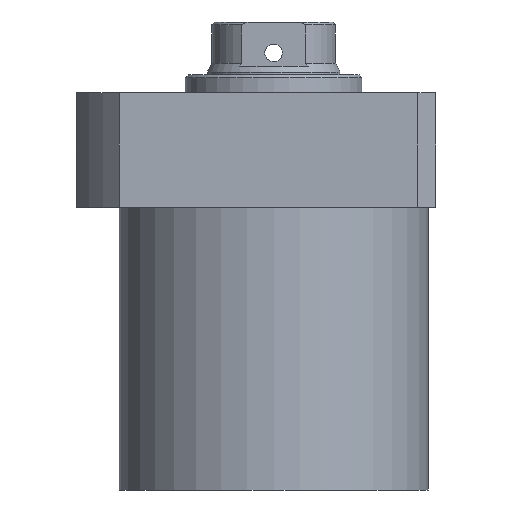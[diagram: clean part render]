
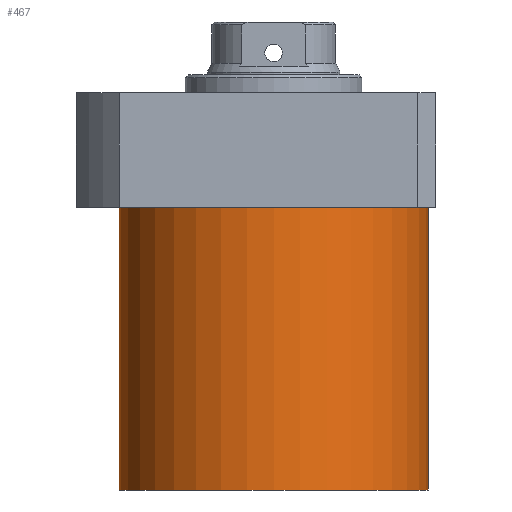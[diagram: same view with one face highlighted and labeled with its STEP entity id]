
A CAD part, front view. The second image highlights one B-rep face of the part: STEP entity #467.
In plain terms, the highlighted cylindrical face has radius 52.5 mm (diameter 105 mm), a partial arc.
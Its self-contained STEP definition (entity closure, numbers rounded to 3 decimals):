
#19 = ORIENTED_EDGE ( 'NONE', *, *, #179, .T. ) ;
#28 = CARTESIAN_POINT ( 'NONE',  ( -52.5, 0., -19.5 ) ) ;
#105 = DIRECTION ( 'NONE',  ( -1., 0., 0. ) ) ;
#159 = CIRCLE ( 'NONE', #407, 52.5 ) ;
#178 = CARTESIAN_POINT ( 'NONE',  ( 52.5, 0., -115.5 ) ) ;
#179 = EDGE_CURVE ( 'NONE', #2017, #1587, #897, .T. ) ;
#249 = CARTESIAN_POINT ( 'NONE',  ( 0., 0., -115.5 ) ) ;
#311 = DIRECTION ( 'NONE',  ( 0., 0., 1. ) ) ;
#328 = AXIS2_PLACEMENT_3D ( 'NONE', #1656, #1997, #661 ) ;
#407 = AXIS2_PLACEMENT_3D ( 'NONE', #249, #1109, #105 ) ;
#459 = FACE_OUTER_BOUND ( 'NONE', #1081, .T. ) ;
#467 = ADVANCED_FACE ( 'NONE', ( #459 ), #652, .T. ) ;
#628 = ORIENTED_EDGE ( 'NONE', *, *, #1413, .F. ) ;
#652 = CYLINDRICAL_SURFACE ( 'NONE', #1900, 52.5 ) ;
#661 = DIRECTION ( 'NONE',  ( 1., 0., 0. ) ) ;
#749 = LINE ( 'NONE', #1343, #1059 ) ;
#813 = CIRCLE ( 'NONE', #328, 52.5 ) ;
#897 = LINE ( 'NONE', #2161, #980 ) ;
#980 = VECTOR ( 'NONE', #311, 1000. ) ;
#982 = EDGE_CURVE ( 'NONE', #1545, #1484, #749, .T. ) ;
#1059 = VECTOR ( 'NONE', #1359, 1000. ) ;
#1081 = EDGE_LOOP ( 'NONE', ( #2125, #628, #19, #1808 ) ) ;
#1109 = DIRECTION ( 'NONE',  ( 0., 0., -1. ) ) ;
#1215 = CARTESIAN_POINT ( 'NONE',  ( 52.5, 0., -19.5 ) ) ;
#1343 = CARTESIAN_POINT ( 'NONE',  ( -52.5, 0., -115.5 ) ) ;
#1359 = DIRECTION ( 'NONE',  ( 0., 0., 1. ) ) ;
#1413 = EDGE_CURVE ( 'NONE', #2017, #1545, #159, .T. ) ;
#1419 = DIRECTION ( 'NONE',  ( 1., 0., 0. ) ) ;
#1484 = VERTEX_POINT ( 'NONE', #28 ) ;
#1545 = VERTEX_POINT ( 'NONE', #2048 ) ;
#1587 = VERTEX_POINT ( 'NONE', #1215 ) ;
#1656 = CARTESIAN_POINT ( 'NONE',  ( 0., 0., -19.5 ) ) ;
#1808 = ORIENTED_EDGE ( 'NONE', *, *, #1869, .T. ) ;
#1869 = EDGE_CURVE ( 'NONE', #1587, #1484, #813, .T. ) ;
#1900 = AXIS2_PLACEMENT_3D ( 'NONE', #1923, #2084, #1419 ) ;
#1923 = CARTESIAN_POINT ( 'NONE',  ( 0., 0., -115.5 ) ) ;
#1997 = DIRECTION ( 'NONE',  ( 0., 0., -1. ) ) ;
#2017 = VERTEX_POINT ( 'NONE', #178 ) ;
#2048 = CARTESIAN_POINT ( 'NONE',  ( -52.5, 0., -115.5 ) ) ;
#2084 = DIRECTION ( 'NONE',  ( 0., 0., 1. ) ) ;
#2125 = ORIENTED_EDGE ( 'NONE', *, *, #982, .F. ) ;
#2161 = CARTESIAN_POINT ( 'NONE',  ( 52.5, 0., -115.5 ) ) ;
